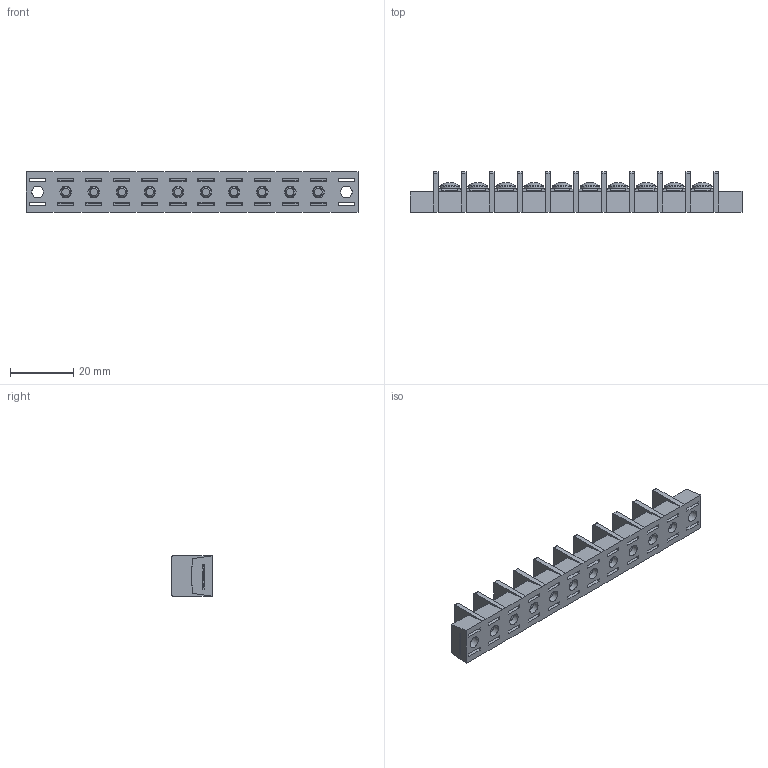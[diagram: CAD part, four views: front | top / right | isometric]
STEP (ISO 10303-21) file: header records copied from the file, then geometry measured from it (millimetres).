
FILE_DESCRIPTION(/* description */ ('Alibre Inc.'),/* implementation_level */ '2;1');
FILE_NAME(/* name */ 'export0',/* time_stamp */ '2015-10-20T20:40:26+09:00',/* author */ (''),/* organization */ (''),/* preprocessor_version */ 'ST-DEVELOPER v14',/* originating_system */ 'Alibre',/* authorisation */ '');
FILE_SCHEMA (('CONFIG_CONTROL_DESIGN'));
Length unit declared in the file: centimetre
Products named in the file (1): ID_1
Bounding box: 105.19 x 12.8 x 12.8 mm (x, y, z)
Volume: 9177.1 mm3; surface area: 11147.6 mm2
Topology: 1 solids, 171 shells, 3182 faces, 8132 edges, 5374 vertices
Faces by surface type: plane 2382, bspline 624, cylinder 96, cone 50, torus 20, sphere 10
Full cylindrical faces by diameter (mm): 3 x20, 3.7 x12, 4.6 x12, 6.3 x10
Entity records: 91923 total; most frequent: CARTESIAN_POINT 22267, ORIENTED_EDGE 16072, DIRECTION 9626, EDGE_CURVE 8036, VECTOR 6204, LINE 6204, VERTEX_POINT 5362, EDGE_LOOP 3500
